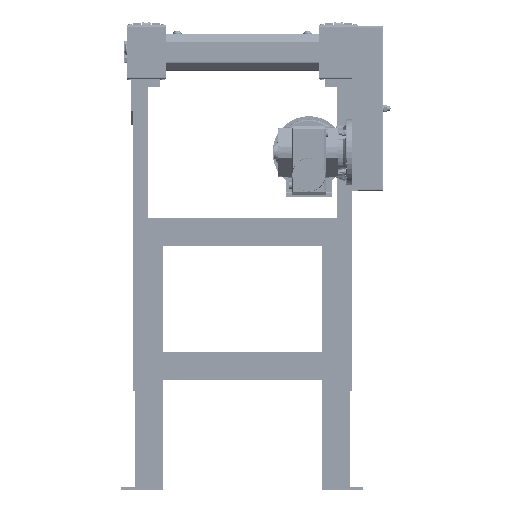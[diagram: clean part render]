
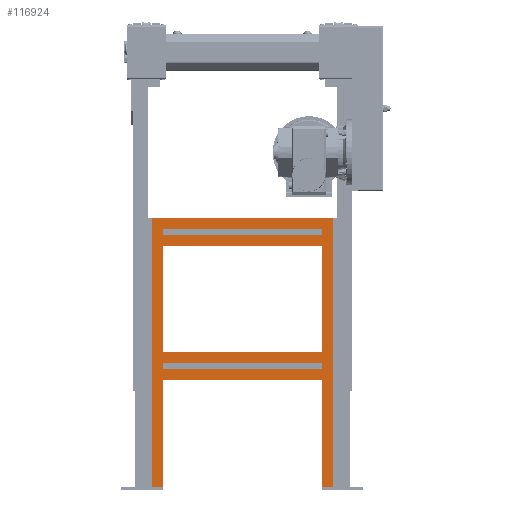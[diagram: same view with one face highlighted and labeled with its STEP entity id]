
A CAD part, front view. The second image highlights one B-rep face of the part: STEP entity #116924.
In plain terms, the highlighted planar face has unit normal (0, -1, 0).
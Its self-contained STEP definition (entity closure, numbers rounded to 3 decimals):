
#2507=LINE('',#173728,#10674);
#2604=LINE('',#173941,#10771);
#2606=LINE('',#173947,#10773);
#2638=LINE('',#174014,#10805);
#2646=LINE('',#174031,#10813);
#2692=LINE('',#174122,#10859);
#2786=LINE('',#174305,#10953);
#2838=LINE('',#174409,#11005);
#2842=LINE('',#174416,#11009);
#2854=LINE('',#174440,#11021);
#2857=LINE('',#174446,#11024);
#2881=LINE('',#174493,#11048);
#2884=LINE('',#174499,#11051);
#2891=LINE('',#174509,#11058);
#2925=LINE('',#174577,#11092);
#2937=LINE('',#174601,#11104);
#2939=LINE('',#174604,#11106);
#2959=LINE('',#174642,#11126);
#2989=LINE('',#174699,#11156);
#2990=LINE('',#174700,#11157);
#10674=VECTOR('',#138318,19.95);
#10771=VECTOR('',#138477,194.5);
#10773=VECTOR('',#138481,194.5);
#10805=VECTOR('',#138527,10.1);
#10813=VECTOR('',#138537,10.1);
#10859=VECTOR('',#138605,489.);
#10953=VECTOR('',#138763,19.95);
#11005=VECTOR('',#138873,291.);
#11009=VECTOR('',#138879,291.);
#11021=VECTOR('',#138903,291.);
#11024=VECTOR('',#138908,291.);
#11048=VECTOR('',#138954,194.5);
#11051=VECTOR('',#138963,194.5);
#11058=VECTOR('',#138972,10.1);
#11092=VECTOR('',#139034,291.);
#11104=VECTOR('',#139058,291.);
#11106=VECTOR('',#139062,291.);
#11126=VECTOR('',#139106,10.1);
#11156=VECTOR('',#139156,330.9);
#11157=VECTOR('',#139157,489.);
#18368=PLANE('',#123774);
#21569=FACE_BOUND('',#31657,.T.);
#21570=FACE_BOUND('',#31658,.T.);
#21571=FACE_BOUND('',#31659,.T.);
#24855=FACE_OUTER_BOUND('',#31656,.T.);
#31656=EDGE_LOOP('',(#77101,#77102,#77103,#77104,#77105,#77106,#77107,#77108));
#31657=EDGE_LOOP('',(#77109,#77110,#77111,#77112));
#31658=EDGE_LOOP('',(#77113,#77114,#77115,#77116));
#31659=EDGE_LOOP('',(#77117,#77118,#77119,#77120));
#48115=VERTEX_POINT('',#173725);
#48116=VERTEX_POINT('',#173727);
#48190=VERTEX_POINT('',#173918);
#48201=VERTEX_POINT('',#173939);
#48203=VERTEX_POINT('',#173944);
#48204=VERTEX_POINT('',#173946);
#48231=VERTEX_POINT('',#174011);
#48232=VERTEX_POINT('',#174013);
#48238=VERTEX_POINT('',#174027);
#48240=VERTEX_POINT('',#174030);
#48272=VERTEX_POINT('',#174118);
#48274=VERTEX_POINT('',#174121);
#48353=VERTEX_POINT('',#174406);
#48356=VERTEX_POINT('',#174413);
#48362=VERTEX_POINT('',#174438);
#48364=VERTEX_POINT('',#174443);
#48376=VERTEX_POINT('',#174491);
#48398=VERTEX_POINT('',#174574);
#48404=VERTEX_POINT('',#174599);
#48427=VERTEX_POINT('',#174698);
#59501=EDGE_CURVE('',#48115,#48116,#2507,.T.);
#59608=EDGE_CURVE('',#48201,#48190,#2604,.T.);
#59610=EDGE_CURVE('',#48203,#48204,#2606,.T.);
#59642=EDGE_CURVE('',#48231,#48232,#2638,.T.);
#59650=EDGE_CURVE('',#48238,#48240,#2646,.T.);
#59696=EDGE_CURVE('',#48274,#48272,#2692,.T.);
#59790=EDGE_CURVE('',#48201,#48274,#2786,.T.);
#59844=EDGE_CURVE('',#48353,#48203,#2838,.T.);
#59848=EDGE_CURVE('',#48232,#48356,#2842,.T.);
#59860=EDGE_CURVE('',#48231,#48362,#2854,.T.);
#59863=EDGE_CURVE('',#48190,#48364,#2857,.T.);
#59887=EDGE_CURVE('',#48353,#48376,#2881,.T.);
#59890=EDGE_CURVE('',#48115,#48364,#2884,.T.);
#59897=EDGE_CURVE('',#48362,#48356,#2891,.T.);
#59931=EDGE_CURVE('',#48240,#48398,#2925,.T.);
#59943=EDGE_CURVE('',#48238,#48404,#2937,.T.);
#59945=EDGE_CURVE('',#48204,#48376,#2939,.T.);
#59965=EDGE_CURVE('',#48404,#48398,#2959,.T.);
#59995=EDGE_CURVE('',#48427,#48272,#2989,.T.);
#59996=EDGE_CURVE('',#48116,#48427,#2990,.T.);
#77101=ORIENTED_EDGE('',*,*,#59863,.F.);
#77102=ORIENTED_EDGE('',*,*,#59608,.F.);
#77103=ORIENTED_EDGE('',*,*,#59790,.T.);
#77104=ORIENTED_EDGE('',*,*,#59696,.T.);
#77105=ORIENTED_EDGE('',*,*,#59995,.F.);
#77106=ORIENTED_EDGE('',*,*,#59996,.F.);
#77107=ORIENTED_EDGE('',*,*,#59501,.F.);
#77108=ORIENTED_EDGE('',*,*,#59890,.T.);
#77109=ORIENTED_EDGE('',*,*,#59844,.F.);
#77110=ORIENTED_EDGE('',*,*,#59887,.T.);
#77111=ORIENTED_EDGE('',*,*,#59945,.F.);
#77112=ORIENTED_EDGE('',*,*,#59610,.F.);
#77113=ORIENTED_EDGE('',*,*,#59848,.F.);
#77114=ORIENTED_EDGE('',*,*,#59642,.F.);
#77115=ORIENTED_EDGE('',*,*,#59860,.T.);
#77116=ORIENTED_EDGE('',*,*,#59897,.T.);
#77117=ORIENTED_EDGE('',*,*,#59931,.F.);
#77118=ORIENTED_EDGE('',*,*,#59650,.F.);
#77119=ORIENTED_EDGE('',*,*,#59943,.T.);
#77120=ORIENTED_EDGE('',*,*,#59965,.T.);
#116924=ADVANCED_FACE('',(#24855,#21569,#21570,#21571),#18368,.T.);
#123774=AXIS2_PLACEMENT_3D('',#174697,#139154,#139155);
#138318=DIRECTION('',(-1.,0.,0.));
#138477=DIRECTION('',(0.,0.,1.));
#138481=DIRECTION('',(0.,0.,1.));
#138527=DIRECTION('',(0.,0.,1.));
#138537=DIRECTION('',(0.,0.,1.));
#138605=DIRECTION('',(0.,0.,1.));
#138763=DIRECTION('',(1.,0.,0.));
#138873=DIRECTION('',(1.,0.,0.));
#138879=DIRECTION('',(-1.,0.,0.));
#138903=DIRECTION('',(-1.,0.,0.));
#138908=DIRECTION('',(-1.,0.,0.));
#138954=DIRECTION('',(0.,0.,1.));
#138963=DIRECTION('',(0.,0.,1.));
#138972=DIRECTION('',(0.,0.,1.));
#139034=DIRECTION('',(-1.,0.,0.));
#139058=DIRECTION('',(-1.,0.,0.));
#139062=DIRECTION('',(-1.,0.,0.));
#139106=DIRECTION('',(0.,0.,1.));
#139154=DIRECTION('center_axis',(0.,-1.,0.));
#139155=DIRECTION('ref_axis',(0.,0.,1.));
#139156=DIRECTION('',(1.,0.,0.));
#139157=DIRECTION('',(0.,0.,1.));
#173725=CARTESIAN_POINT('',(-145.5,-325.,6.));
#173727=CARTESIAN_POINT('',(-165.45,-325.,6.));
#173728=CARTESIAN_POINT('',(-164.25,-325.,6.));
#173918=CARTESIAN_POINT('',(145.5,-325.,200.5));
#173939=CARTESIAN_POINT('',(145.5,-325.,6.));
#173941=CARTESIAN_POINT('',(145.5,-325.,6.));
#173944=CARTESIAN_POINT('',(145.5,-325.,250.5));
#173946=CARTESIAN_POINT('',(145.5,-325.,445.));
#173947=CARTESIAN_POINT('',(145.5,-325.,6.));
#174011=CARTESIAN_POINT('',(145.5,-325.,220.45));
#174013=CARTESIAN_POINT('',(145.5,-325.,230.55));
#174014=CARTESIAN_POINT('',(145.5,-325.,6.));
#174027=CARTESIAN_POINT('',(145.5,-325.,464.95));
#174030=CARTESIAN_POINT('',(145.5,-325.,475.05));
#174031=CARTESIAN_POINT('',(145.5,-325.,6.));
#174118=CARTESIAN_POINT('',(165.45,-325.,495.));
#174121=CARTESIAN_POINT('',(165.45,-325.,6.));
#174122=CARTESIAN_POINT('',(165.45,-325.,6.));
#174305=CARTESIAN_POINT('',(164.25,-325.,6.));
#174406=CARTESIAN_POINT('',(-145.5,-325.,250.5));
#174409=CARTESIAN_POINT('',(0.,-325.,250.5));
#174413=CARTESIAN_POINT('',(-145.5,-325.,230.55));
#174416=CARTESIAN_POINT('',(0.,-325.,230.55));
#174438=CARTESIAN_POINT('',(-145.5,-325.,220.45));
#174440=CARTESIAN_POINT('',(0.,-325.,220.45));
#174443=CARTESIAN_POINT('',(-145.5,-325.,200.5));
#174446=CARTESIAN_POINT('',(0.,-325.,200.5));
#174491=CARTESIAN_POINT('',(-145.5,-325.,445.));
#174493=CARTESIAN_POINT('',(-145.5,-325.,6.));
#174499=CARTESIAN_POINT('',(-145.5,-325.,6.));
#174509=CARTESIAN_POINT('',(-145.5,-325.,6.));
#174574=CARTESIAN_POINT('',(-145.5,-325.,475.05));
#174577=CARTESIAN_POINT('',(0.,-325.,475.05));
#174599=CARTESIAN_POINT('',(-145.5,-325.,464.95));
#174601=CARTESIAN_POINT('',(0.,-325.,464.95));
#174604=CARTESIAN_POINT('',(0.,-325.,445.));
#174642=CARTESIAN_POINT('',(-145.5,-325.,6.));
#174697=CARTESIAN_POINT('Origin',(-145.5,-325.,6.));
#174698=CARTESIAN_POINT('',(-165.45,-325.,495.));
#174699=CARTESIAN_POINT('',(165.45,-325.,495.));
#174700=CARTESIAN_POINT('',(-165.45,-325.,6.));
